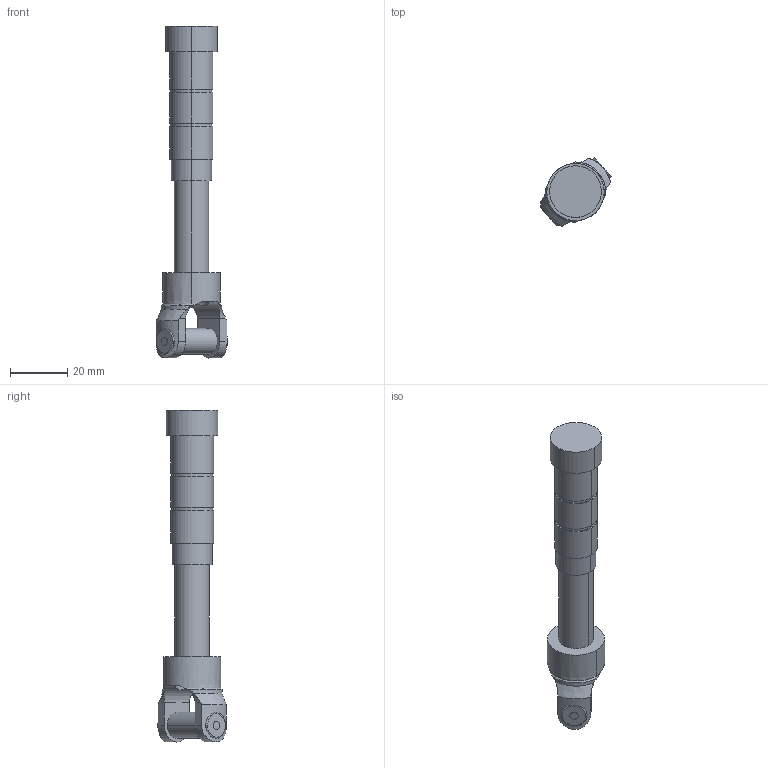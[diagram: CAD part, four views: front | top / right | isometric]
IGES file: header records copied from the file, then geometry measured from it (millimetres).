
Start section: SolidWorks IGES file using analytic representation for surfaces
Global section: file name: C:\Users\SELUHAA\OneDrive - ABB\Work items\609433\IRB360_8-1130-STD-4D_rev03\IRB360_8-1130-STD-4D_rev03_IGS_J\IRB360_8-1130-STD-4D_rev03_RevoluteLinkBase_CAD.igs; native system: SolidWorks 2022; preprocessor: SolidWorks 2022; author: SELUHAA; date: 250115.102651; units: millimetre
Bounding box: 24.98 x 23.91 x 115.8 mm (x, y, z)
Volume: 19644.2 mm3; surface area: 8165.7 mm2
Topology: 3 solids, 3 shells, 71 faces, 169 edges, 111 vertices
Faces by surface type: revolution 48, plane 21, bspline 2
